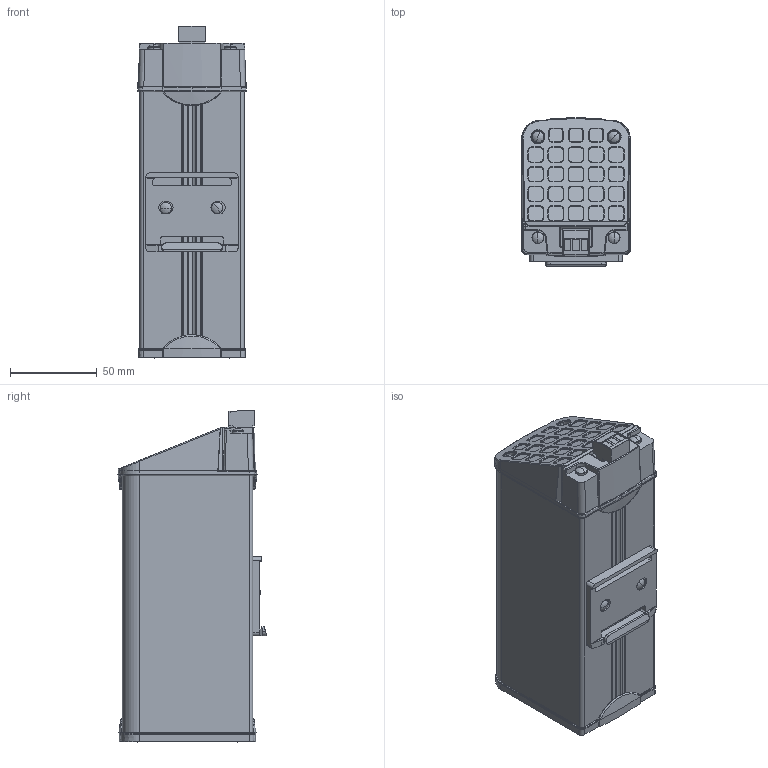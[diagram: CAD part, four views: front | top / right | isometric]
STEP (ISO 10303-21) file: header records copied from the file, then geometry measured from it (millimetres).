
FILE_DESCRIPTION (( 'STEP AP214' ), '1' );
FILE_NAME ('HTM100-1.STEP', '2026-01-27T08:37:25', ( '' ), ( '' ), 'SwSTEP 2.0', 'SolidWorks 2022', '' );
FILE_SCHEMA (( 'AUTOMOTIVE_DESIGN' ));
Length unit declared in the file: millimetre
Products named in the file (12): Copertura Alluminio_Lungh. L150 mm semplificata; 2EDGKF-5.0-03P-04_semplificata; Profilo dissipatore deformato_Lung.150mm semplificato; Vite ST3.5x38_semplificata; DT-04539DSI_Semplificata; Rivetto; Vite ST3.5_semplificata; HTM100-1; Tappo Plastico di estremità_tappo semplificato; DT-04537DSI_Metallica semplificata; Base plastica CLIP_CLIP-01 semplificata
Assembly tree (18 placements, depth 2):
  HTM100-1
    Profilo dissipatore deformato_Lung.150mm semplificato
    Copertura Alluminio_Lungh. L150 mm semplificata
    Copertura Alluminio_Lungh. L150 mm semplificata
    Rivetto  x2
    Base plastica CLIP_CLIP-01 semplificata
    Tappo Plastico di estremità_tappo semplificato
    Vite ST3.5_semplificata  x6
    Vite ST3.5x38_semplificata  x2
    DT-04539DSI_Semplificata
    DT-04537DSI_Metallica semplificata
    2EDGKF-5.0-03P-04_semplificata
Bounding box: 62.7 x 85.3 x 191.25 mm (x, y, z)
Volume: 772411.3 mm3; surface area: 133646 mm2
Topology: 18 solids, 18 shells, 1254 faces, 3172 edges, 1994 vertices
Faces by surface type: plane 487, cylinder 285, cone 262, bspline 158, torus 32, sphere 30
Entity records: 43730 total; most frequent: CARTESIAN_POINT 14567, ORIENTED_EDGE 6152, DIRECTION 5393, EDGE_CURVE 3076, VERTEX_POINT 1938, AXIS2_PLACEMENT_3D 1861, LINE 1671, VECTOR 1671
